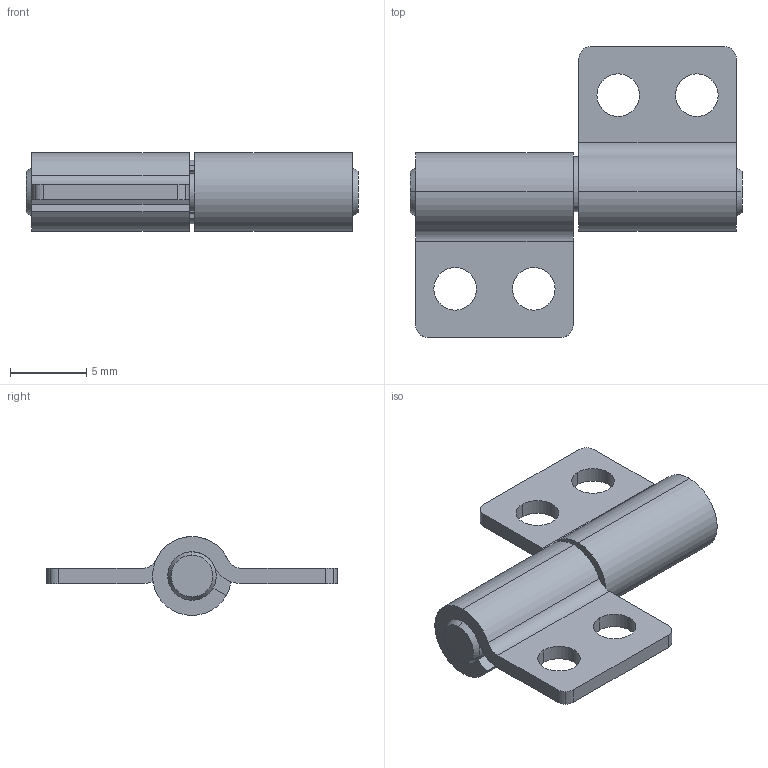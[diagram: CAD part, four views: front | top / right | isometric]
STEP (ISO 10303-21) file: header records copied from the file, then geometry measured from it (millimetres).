
FILE_DESCRIPTION(('STEP AP214'),'1');
FILE_NAME('C:/Users/HAN/Desktop/0500-0001-HNG L Rev 0_0.stp','2014-01-02T19:04:06',(' '),(' '),'Spatial InterOp 3D',' ',' ');
FILE_SCHEMA(('automotive_design'));
Length unit declared in the file: inch
Products named in the file (4): 0500-0001-BND Rev 0_0; 0500-0001-SHA Rev 0_0; Snap Ring 2000-12
Bounding box: 21.77 x 19.05 x 5.17 mm (x, y, z)
Volume: 541.3 mm3; surface area: 1139.8 mm2
Topology: 4 solids, 4 shells, 76 faces, 194 edges, 128 vertices
Faces by surface type: cylinder 48, plane 24, cone 4
Entity records: 3031 total; most frequent: DIRECTION 454, CARTESIAN_POINT 402, ORIENTED_EDGE 388, EDGE_CURVE 194, AXIS2_PLACEMENT_3D 180, VERTEX_POINT 128, CIRCLE 100, LINE 94
